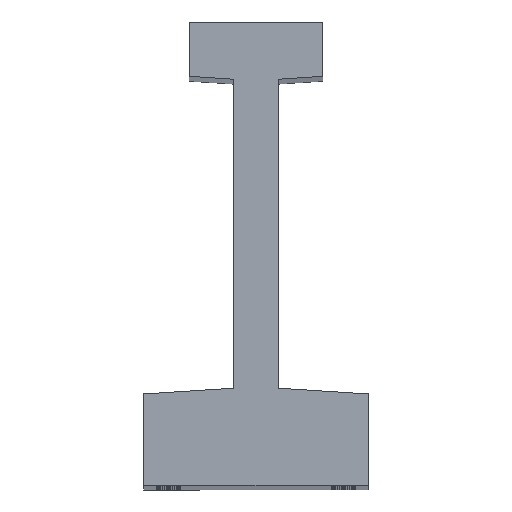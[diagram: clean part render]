
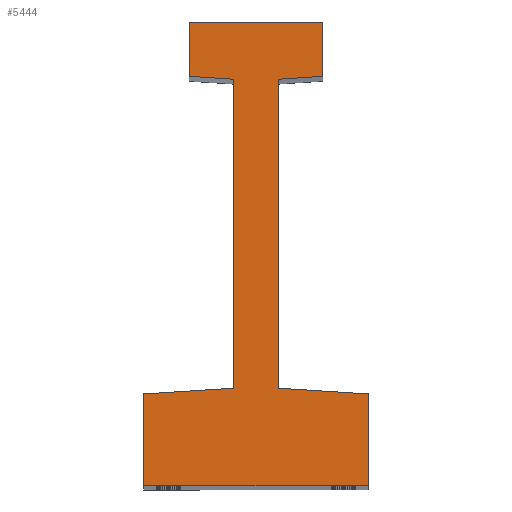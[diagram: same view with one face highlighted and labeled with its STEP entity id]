
A CAD part, top view. The second image highlights one B-rep face of the part: STEP entity #5444.
In plain terms, the highlighted planar face has unit normal (0, 0, 1).
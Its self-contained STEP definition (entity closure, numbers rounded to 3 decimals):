
#7 = CARTESIAN_POINT ( 'NONE',  ( -11.45, 0., 481. ) ) ;
#164 = VERTEX_POINT ( 'NONE', #1864 ) ;
#195 = CARTESIAN_POINT ( 'NONE',  ( -3.8, -9.795, 481. ) ) ;
#205 = LINE ( 'NONE', #2539, #2447 ) ;
#302 = ORIENTED_EDGE ( 'NONE', *, *, #3606, .T. ) ;
#354 = CARTESIAN_POINT ( 'NONE',  ( -11.45, -9.3, 481. ) ) ;
#373 = LINE ( 'NONE', #3656, #2833 ) ;
#454 = EDGE_CURVE ( 'NONE', #1509, #5540, #5636, .T. ) ;
#483 = LINE ( 'NONE', #195, #3849 ) ;
#561 = VECTOR ( 'NONE', #5031, 1000. ) ;
#645 = LINE ( 'NONE', #1210, #2510 ) ;
#646 = CARTESIAN_POINT ( 'NONE',  ( 11.45, -9.3, 481. ) ) ;
#855 = AXIS2_PLACEMENT_3D ( 'NONE', #1253, #4627, #3567 ) ;
#1016 = CARTESIAN_POINT ( 'NONE',  ( -19.25, -79.3, 481. ) ) ;
#1053 = ORIENTED_EDGE ( 'NONE', *, *, #2467, .T. ) ;
#1142 = ORIENTED_EDGE ( 'NONE', *, *, #1270, .T. ) ;
#1210 = CARTESIAN_POINT ( 'NONE',  ( -19.25, -79.3, 481. ) ) ;
#1253 = CARTESIAN_POINT ( 'NONE',  ( 0., 0., 481. ) ) ;
#1270 = EDGE_CURVE ( 'NONE', #2222, #164, #205, .T. ) ;
#1320 = CARTESIAN_POINT ( 'NONE',  ( 11.45, -9.3, 481. ) ) ;
#1340 = DIRECTION ( 'NONE',  ( -0.998, 0.065, 0. ) ) ;
#1365 = VERTEX_POINT ( 'NONE', #3571 ) ;
#1378 = CARTESIAN_POINT ( 'NONE',  ( -3.8, -9.795, 481. ) ) ;
#1455 = VERTEX_POINT ( 'NONE', #3591 ) ;
#1509 = VERTEX_POINT ( 'NONE', #5683 ) ;
#1603 = CARTESIAN_POINT ( 'NONE',  ( -11.45, 0., 481. ) ) ;
#1610 = LINE ( 'NONE', #5095, #5171 ) ;
#1757 = DIRECTION ( 'NONE',  ( 0., -1., 0. ) ) ;
#1835 = CARTESIAN_POINT ( 'NONE',  ( -19.25, -63.7, 481. ) ) ;
#1864 = CARTESIAN_POINT ( 'NONE',  ( -3.8, -62.7, 481. ) ) ;
#1906 = EDGE_CURVE ( 'NONE', #1455, #5853, #3802, .T. ) ;
#1990 = VECTOR ( 'NONE', #5490, 1000. ) ;
#2069 = CARTESIAN_POINT ( 'NONE',  ( 19.25, -63.7, 481. ) ) ;
#2222 = VERTEX_POINT ( 'NONE', #1378 ) ;
#2270 = ORIENTED_EDGE ( 'NONE', *, *, #4904, .T. ) ;
#2447 = VECTOR ( 'NONE', #4477, 1000. ) ;
#2467 = EDGE_CURVE ( 'NONE', #3818, #1455, #4399, .T. ) ;
#2510 = VECTOR ( 'NONE', #5936, 1000. ) ;
#2539 = CARTESIAN_POINT ( 'NONE',  ( -3.8, -62.7, 481. ) ) ;
#2644 = CARTESIAN_POINT ( 'NONE',  ( 3.8, -9.795, 481. ) ) ;
#2662 = PLANE ( 'NONE',  #855 ) ;
#2833 = VECTOR ( 'NONE', #5661, 1000. ) ;
#2886 = VECTOR ( 'NONE', #4992, 1000. ) ;
#3214 = LINE ( 'NONE', #1320, #3958 ) ;
#3235 = DIRECTION ( 'NONE',  ( 0.998, 0.065, 0. ) ) ;
#3282 = VECTOR ( 'NONE', #1340, 1000. ) ;
#3371 = EDGE_CURVE ( 'NONE', #164, #6159, #373, .T. ) ;
#3462 = CARTESIAN_POINT ( 'NONE',  ( 3.8, -9.795, 481. ) ) ;
#3556 = EDGE_CURVE ( 'NONE', #6073, #5392, #1610, .T. ) ;
#3567 = DIRECTION ( 'NONE',  ( 1., 0., 0. ) ) ;
#3571 = CARTESIAN_POINT ( 'NONE',  ( -11.45, -9.3, 481. ) ) ;
#3581 = ORIENTED_EDGE ( 'NONE', *, *, #4112, .T. ) ;
#3591 = CARTESIAN_POINT ( 'NONE',  ( 11.45, 0., 481. ) ) ;
#3606 = EDGE_CURVE ( 'NONE', #5540, #3818, #3214, .T. ) ;
#3641 = DIRECTION ( 'NONE',  ( 0., 1., 0. ) ) ;
#3656 = CARTESIAN_POINT ( 'NONE',  ( -19.25, -63.7, 481. ) ) ;
#3802 = LINE ( 'NONE', #1603, #1990 ) ;
#3818 = VERTEX_POINT ( 'NONE', #646 ) ;
#3844 = ORIENTED_EDGE ( 'NONE', *, *, #1906, .T. ) ;
#3849 = VECTOR ( 'NONE', #4529, 1000. ) ;
#3958 = VECTOR ( 'NONE', #3235, 1000. ) ;
#4068 = VECTOR ( 'NONE', #1757, 1000. ) ;
#4112 = EDGE_CURVE ( 'NONE', #5392, #1509, #5011, .T. ) ;
#4248 = LINE ( 'NONE', #5769, #2886 ) ;
#4399 = LINE ( 'NONE', #5991, #561 ) ;
#4477 = DIRECTION ( 'NONE',  ( 0., -1., 0. ) ) ;
#4529 = DIRECTION ( 'NONE',  ( 0.998, -0.065, 0. ) ) ;
#4627 = DIRECTION ( 'NONE',  ( 0., 0., 1. ) ) ;
#4816 = ORIENTED_EDGE ( 'NONE', *, *, #6203, .T. ) ;
#4904 = EDGE_CURVE ( 'NONE', #6159, #5235, #645, .T. ) ;
#4909 = ORIENTED_EDGE ( 'NONE', *, *, #3371, .T. ) ;
#4923 = ORIENTED_EDGE ( 'NONE', *, *, #454, .T. ) ;
#4992 = DIRECTION ( 'NONE',  ( 1., 0., 0. ) ) ;
#4999 = FACE_OUTER_BOUND ( 'NONE', #6081, .T. ) ;
#5011 = LINE ( 'NONE', #5237, #3282 ) ;
#5031 = DIRECTION ( 'NONE',  ( 0., 1., 0. ) ) ;
#5095 = CARTESIAN_POINT ( 'NONE',  ( 19.25, -63.7, 481. ) ) ;
#5126 = CARTESIAN_POINT ( 'NONE',  ( 19.25, -79.3, 481. ) ) ;
#5138 = ORIENTED_EDGE ( 'NONE', *, *, #3556, .T. ) ;
#5171 = VECTOR ( 'NONE', #3641, 1000. ) ;
#5235 = VERTEX_POINT ( 'NONE', #1016 ) ;
#5237 = CARTESIAN_POINT ( 'NONE',  ( 3.8, -62.7, 481. ) ) ;
#5307 = EDGE_CURVE ( 'NONE', #5235, #6073, #4248, .T. ) ;
#5334 = VECTOR ( 'NONE', #5431, 1000. ) ;
#5392 = VERTEX_POINT ( 'NONE', #2069 ) ;
#5431 = DIRECTION ( 'NONE',  ( 0., 1., 0. ) ) ;
#5444 = ADVANCED_FACE ( 'NONE', ( #4999 ), #2662, .T. ) ;
#5489 = LINE ( 'NONE', #354, #4068 ) ;
#5490 = DIRECTION ( 'NONE',  ( -1., 0., 0. ) ) ;
#5540 = VERTEX_POINT ( 'NONE', #2644 ) ;
#5636 = LINE ( 'NONE', #3462, #5334 ) ;
#5661 = DIRECTION ( 'NONE',  ( -0.998, -0.065, 0. ) ) ;
#5683 = CARTESIAN_POINT ( 'NONE',  ( 3.8, -62.7, 481. ) ) ;
#5769 = CARTESIAN_POINT ( 'NONE',  ( 19.25, -79.3, 481. ) ) ;
#5853 = VERTEX_POINT ( 'NONE', #7 ) ;
#5936 = DIRECTION ( 'NONE',  ( 0., -1., 0. ) ) ;
#5937 = EDGE_CURVE ( 'NONE', #1365, #2222, #483, .T. ) ;
#5944 = ORIENTED_EDGE ( 'NONE', *, *, #5937, .T. ) ;
#5991 = CARTESIAN_POINT ( 'NONE',  ( 11.45, 0., 481. ) ) ;
#6073 = VERTEX_POINT ( 'NONE', #5126 ) ;
#6081 = EDGE_LOOP ( 'NONE', ( #302, #1053, #3844, #4816, #5944, #1142, #4909, #2270, #6250, #5138, #3581, #4923 ) ) ;
#6159 = VERTEX_POINT ( 'NONE', #1835 ) ;
#6203 = EDGE_CURVE ( 'NONE', #5853, #1365, #5489, .T. ) ;
#6250 = ORIENTED_EDGE ( 'NONE', *, *, #5307, .T. ) ;
